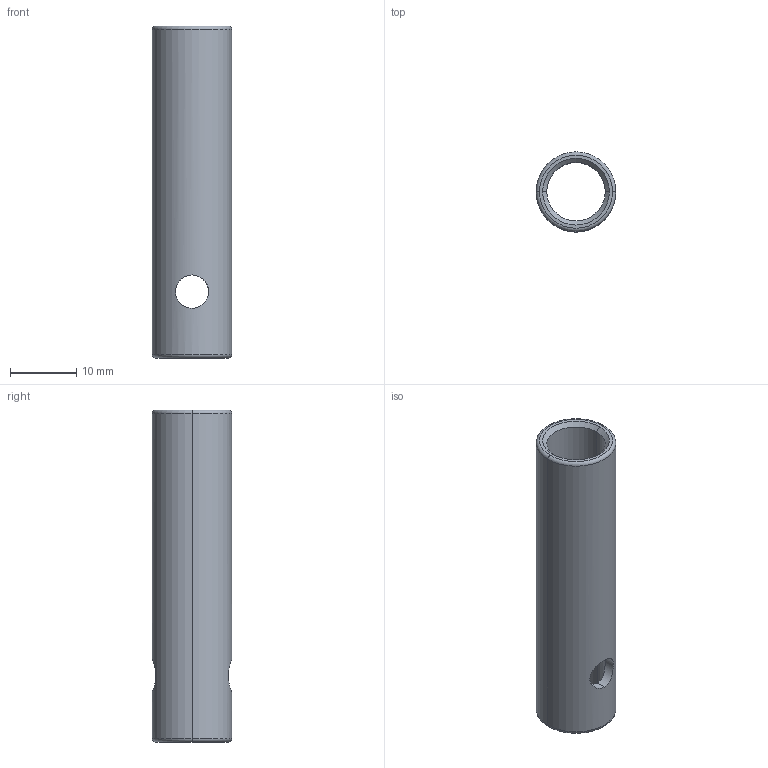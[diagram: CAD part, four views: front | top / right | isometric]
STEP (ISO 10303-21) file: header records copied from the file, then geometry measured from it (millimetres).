
FILE_DESCRIPTION (( 'STEP AP214' ), '1' );
FILE_NAME ('SMBY12-50.STEP', '2023-01-05T08:08:34', ( 'Windows User' ), ( 'P R C' ), 'SwSTEP 2.0', 'SolidWorks 2018', '' );
FILE_SCHEMA (( 'AUTOMOTIVE_DESIGN' ));
Length unit declared in the file: millimetre
Products named in the file (1): SMBY12-50
Bounding box: 12 x 12 x 50 mm (x, y, z)
Volume: 2437.1 mm3; surface area: 3338.8 mm2
Topology: 1 solids, 1 shells, 19 faces, 42 edges, 26 vertices
Faces by surface type: cylinder 10, torus 4, plane 3, cone 2
Entity records: 818 total; most frequent: CARTESIAN_POINT 324, DIRECTION 96, ORIENTED_EDGE 84, EDGE_CURVE 42, AXIS2_PLACEMENT_3D 42, EDGE_LOOP 26, VERTEX_POINT 26, CIRCLE 22
